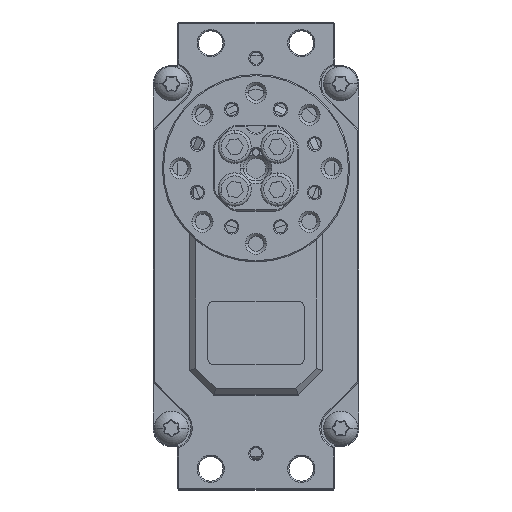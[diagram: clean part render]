
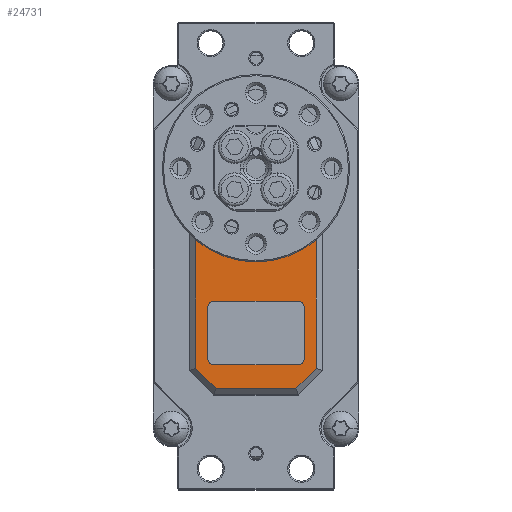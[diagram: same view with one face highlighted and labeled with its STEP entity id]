
A CAD part, top view. The second image highlights one B-rep face of the part: STEP entity #24731.
In plain terms, the highlighted planar face has unit normal (0, 0, 1).
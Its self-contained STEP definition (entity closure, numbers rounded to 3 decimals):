
#171 = CARTESIAN_POINT ( 'NONE',  ( 6.586, -36.5, 3.9 ) ) ;
#189 = ORIENTED_EDGE ( 'NONE', *, *, #18224, .T. ) ;
#194 = ORIENTED_EDGE ( 'NONE', *, *, #28514, .T. ) ;
#677 = LINE ( 'NONE', #16154, #4040 ) ;
#786 = ORIENTED_EDGE ( 'NONE', *, *, #11096, .F. ) ;
#1022 = CARTESIAN_POINT ( 'NONE',  ( -10., 0., 3.9 ) ) ;
#1552 = CARTESIAN_POINT ( 'NONE',  ( 7., -22., 3.9 ) ) ;
#1826 = CARTESIAN_POINT ( 'NONE',  ( -10., -33.086, 3.9 ) ) ;
#1905 = VECTOR ( 'NONE', #30368, 1000. ) ;
#1912 = AXIS2_PLACEMENT_3D ( 'NONE', #37368, #6768, #7178 ) ;
#2776 = VERTEX_POINT ( 'NONE', #34195 ) ;
#3657 = ORIENTED_EDGE ( 'NONE', *, *, #9508, .T. ) ;
#3662 = VERTEX_POINT ( 'NONE', #21142 ) ;
#3670 = ORIENTED_EDGE ( 'NONE', *, *, #22454, .T. ) ;
#3721 = CIRCLE ( 'NONE', #5652, 1. ) ;
#4040 = VECTOR ( 'NONE', #22624, 1000. ) ;
#4131 = CARTESIAN_POINT ( 'NONE',  ( 0., 0., 3.9 ) ) ;
#4192 = DIRECTION ( 'NONE',  ( 0., 0., -1. ) ) ;
#4248 = DIRECTION ( 'NONE',  ( -1., 0., 0. ) ) ;
#4333 = DIRECTION ( 'NONE',  ( 1., 0., 0. ) ) ;
#4382 = ORIENTED_EDGE ( 'NONE', *, *, #20488, .T. ) ;
#4862 = DIRECTION ( 'NONE',  ( 0., -1., 0. ) ) ;
#4981 = DIRECTION ( 'NONE',  ( 0., 0., -1. ) ) ;
#5193 = AXIS2_PLACEMENT_3D ( 'NONE', #4131, #28900, #4333 ) ;
#5201 = DIRECTION ( 'NONE',  ( 0., 1., 0. ) ) ;
#5411 = VERTEX_POINT ( 'NONE', #33378 ) ;
#5652 = AXIS2_PLACEMENT_3D ( 'NONE', #22909, #4192, #10426 ) ;
#5908 = CARTESIAN_POINT ( 'NONE',  ( -8., -23., 3.9 ) ) ;
#6180 = VECTOR ( 'NONE', #34448, 1000. ) ;
#6630 = EDGE_CURVE ( 'NONE', #31375, #15443, #677, .T. ) ;
#6768 = DIRECTION ( 'NONE',  ( 0., 0., -1. ) ) ;
#6865 = DIRECTION ( 'NONE',  ( 1., 0., 0. ) ) ;
#7178 = DIRECTION ( 'NONE',  ( 1., 0., 0. ) ) ;
#7702 = LINE ( 'NONE', #26417, #14616 ) ;
#7883 = CIRCLE ( 'NONE', #30372, 1. ) ;
#8045 = CARTESIAN_POINT ( 'NONE',  ( -8., -31.5, 3.9 ) ) ;
#8875 = VECTOR ( 'NONE', #16112, 1000. ) ;
#9374 = EDGE_CURVE ( 'NONE', #12644, #2776, #7702, .T. ) ;
#9508 = EDGE_CURVE ( 'NONE', #25702, #12644, #3721, .T. ) ;
#10282 = LINE ( 'NONE', #22571, #26160 ) ;
#10426 = DIRECTION ( 'NONE',  ( 1., 0., 0. ) ) ;
#10483 = LINE ( 'NONE', #1022, #8875 ) ;
#10624 = LINE ( 'NONE', #10840, #13918 ) ;
#10644 = ORIENTED_EDGE ( 'NONE', *, *, #9374, .T. ) ;
#10792 = CARTESIAN_POINT ( 'NONE',  ( 0., -10.5, 3.9 ) ) ;
#10840 = CARTESIAN_POINT ( 'NONE',  ( 10., 14., 3.9 ) ) ;
#11021 = LINE ( 'NONE', #14016, #23223 ) ;
#11096 = EDGE_CURVE ( 'NONE', #26518, #33959, #35960, .T. ) ;
#11533 = AXIS2_PLACEMENT_3D ( 'NONE', #27128, #33347, #30128 ) ;
#12484 = EDGE_LOOP ( 'NONE', ( #3657, #10644, #189, #33798, #4382, #33476, #12808, #194 ) ) ;
#12510 = CARTESIAN_POINT ( 'NONE',  ( 9.67, -10.5, 3.9 ) ) ;
#12644 = VERTEX_POINT ( 'NONE', #35707 ) ;
#12808 = ORIENTED_EDGE ( 'NONE', *, *, #13379, .T. ) ;
#13379 = EDGE_CURVE ( 'NONE', #13992, #3662, #31456, .T. ) ;
#13708 = LINE ( 'NONE', #16940, #26580 ) ;
#13780 = LINE ( 'NONE', #10792, #30108 ) ;
#13807 = AXIS2_PLACEMENT_3D ( 'NONE', #31011, #16296, #6865 ) ;
#13918 = VECTOR ( 'NONE', #5201, 1000. ) ;
#13992 = VERTEX_POINT ( 'NONE', #5908 ) ;
#14016 = CARTESIAN_POINT ( 'NONE',  ( -14., -32.5, 3.9 ) ) ;
#14464 = ORIENTED_EDGE ( 'NONE', *, *, #19042, .T. ) ;
#14616 = VECTOR ( 'NONE', #4862, 1000. ) ;
#15443 = VERTEX_POINT ( 'NONE', #16731 ) ;
#15520 = LINE ( 'NONE', #27832, #6180 ) ;
#16112 = DIRECTION ( 'NONE',  ( 0., 1., 0. ) ) ;
#16154 = CARTESIAN_POINT ( 'NONE',  ( 6.586, -36.5, 3.9 ) ) ;
#16296 = DIRECTION ( 'NONE',  ( 0., 0., -1. ) ) ;
#16731 = CARTESIAN_POINT ( 'NONE',  ( 10., -33.086, 3.9 ) ) ;
#16940 = CARTESIAN_POINT ( 'NONE',  ( -14., -10.5, 3.9 ) ) ;
#17243 = DIRECTION ( 'NONE',  ( 1., 0., 0. ) ) ;
#18224 = EDGE_CURVE ( 'NONE', #2776, #31294, #7883, .T. ) ;
#18483 = CARTESIAN_POINT ( 'NONE',  ( -14., -22., 3.9 ) ) ;
#18827 = VERTEX_POINT ( 'NONE', #12510 ) ;
#19042 = EDGE_CURVE ( 'NONE', #32777, #23714, #13708, .T. ) ;
#20246 = EDGE_LOOP ( 'NONE', ( #14464, #25347, #786, #23186, #25881, #3670, #27604, #32304 ) ) ;
#20278 = DIRECTION ( 'NONE',  ( -1., 0., 0. ) ) ;
#20488 = EDGE_CURVE ( 'NONE', #5411, #25396, #37619, .T. ) ;
#21065 = DIRECTION ( 'NONE',  ( -0.707, 0.707, 0. ) ) ;
#21142 = CARTESIAN_POINT ( 'NONE',  ( -7., -22., 3.9 ) ) ;
#22454 = EDGE_CURVE ( 'NONE', #15443, #25057, #10624, .T. ) ;
#22571 = CARTESIAN_POINT ( 'NONE',  ( 0., -36.5, 3.9 ) ) ;
#22624 = DIRECTION ( 'NONE',  ( 0.707, 0.707, 0. ) ) ;
#22909 = CARTESIAN_POINT ( 'NONE',  ( 7., -23., 3.9 ) ) ;
#23186 = ORIENTED_EDGE ( 'NONE', *, *, #33913, .F. ) ;
#23223 = VECTOR ( 'NONE', #20278, 1000. ) ;
#23421 = EDGE_CURVE ( 'NONE', #33959, #23714, #10483, .T. ) ;
#23714 = VERTEX_POINT ( 'NONE', #37374 ) ;
#23895 = EDGE_CURVE ( 'NONE', #25057, #18827, #13780, .T. ) ;
#24387 = CARTESIAN_POINT ( 'NONE',  ( 10., -10.5, 3.9 ) ) ;
#24731 = ADVANCED_FACE ( 'NONE', ( #32955, #38989 ), #39194, .T. ) ;
#25057 = VERTEX_POINT ( 'NONE', #24387 ) ;
#25347 = ORIENTED_EDGE ( 'NONE', *, *, #23421, .F. ) ;
#25396 = VERTEX_POINT ( 'NONE', #8045 ) ;
#25702 = VERTEX_POINT ( 'NONE', #1552 ) ;
#25827 = CARTESIAN_POINT ( 'NONE',  ( -6.586, -36.5, 3.9 ) ) ;
#25881 = ORIENTED_EDGE ( 'NONE', *, *, #6630, .T. ) ;
#26097 = EDGE_CURVE ( 'NONE', #18827, #32777, #32192, .T. ) ;
#26160 = VECTOR ( 'NONE', #4248, 1000. ) ;
#26417 = CARTESIAN_POINT ( 'NONE',  ( 8., 14., 3.9 ) ) ;
#26518 = VERTEX_POINT ( 'NONE', #25827 ) ;
#26580 = VECTOR ( 'NONE', #38512, 1000. ) ;
#26942 = CARTESIAN_POINT ( 'NONE',  ( -9.67, -10.5, 3.9 ) ) ;
#27128 = CARTESIAN_POINT ( 'NONE',  ( -14., 14., 3.9 ) ) ;
#27465 = VECTOR ( 'NONE', #21065, 1000. ) ;
#27604 = ORIENTED_EDGE ( 'NONE', *, *, #23895, .T. ) ;
#27832 = CARTESIAN_POINT ( 'NONE',  ( -8., 14., 3.9 ) ) ;
#28514 = EDGE_CURVE ( 'NONE', #3662, #25702, #36603, .T. ) ;
#28900 = DIRECTION ( 'NONE',  ( 0., 0., -1. ) ) ;
#29789 = CARTESIAN_POINT ( 'NONE',  ( 7., -32.5, 3.9 ) ) ;
#30108 = VECTOR ( 'NONE', #35545, 1000. ) ;
#30128 = DIRECTION ( 'NONE',  ( 1., 0., 0. ) ) ;
#30368 = DIRECTION ( 'NONE',  ( 1., 0., 0. ) ) ;
#30372 = AXIS2_PLACEMENT_3D ( 'NONE', #35378, #4981, #17243 ) ;
#31011 = CARTESIAN_POINT ( 'NONE',  ( -7., -31.5, 3.9 ) ) ;
#31294 = VERTEX_POINT ( 'NONE', #29789 ) ;
#31375 = VERTEX_POINT ( 'NONE', #171 ) ;
#31456 = CIRCLE ( 'NONE', #1912, 1. ) ;
#31627 = EDGE_CURVE ( 'NONE', #31294, #5411, #11021, .T. ) ;
#32192 = CIRCLE ( 'NONE', #5193, 14.274 ) ;
#32304 = ORIENTED_EDGE ( 'NONE', *, *, #26097, .T. ) ;
#32777 = VERTEX_POINT ( 'NONE', #26942 ) ;
#32955 = FACE_BOUND ( 'NONE', #12484, .T. ) ;
#33347 = DIRECTION ( 'NONE',  ( 0., 0., 1. ) ) ;
#33378 = CARTESIAN_POINT ( 'NONE',  ( -7., -32.5, 3.9 ) ) ;
#33476 = ORIENTED_EDGE ( 'NONE', *, *, #34945, .T. ) ;
#33535 = CARTESIAN_POINT ( 'NONE',  ( -6.586, -36.5, 3.9 ) ) ;
#33798 = ORIENTED_EDGE ( 'NONE', *, *, #31627, .T. ) ;
#33913 = EDGE_CURVE ( 'NONE', #31375, #26518, #10282, .T. ) ;
#33959 = VERTEX_POINT ( 'NONE', #1826 ) ;
#34195 = CARTESIAN_POINT ( 'NONE',  ( 8., -31.5, 3.9 ) ) ;
#34448 = DIRECTION ( 'NONE',  ( 0., 1., 0. ) ) ;
#34945 = EDGE_CURVE ( 'NONE', #25396, #13992, #15520, .T. ) ;
#35378 = CARTESIAN_POINT ( 'NONE',  ( 7., -31.5, 3.9 ) ) ;
#35545 = DIRECTION ( 'NONE',  ( -1., 0., 0. ) ) ;
#35707 = CARTESIAN_POINT ( 'NONE',  ( 8., -23., 3.9 ) ) ;
#35960 = LINE ( 'NONE', #33535, #27465 ) ;
#36603 = LINE ( 'NONE', #18483, #1905 ) ;
#37368 = CARTESIAN_POINT ( 'NONE',  ( -7., -23., 3.9 ) ) ;
#37374 = CARTESIAN_POINT ( 'NONE',  ( -10., -10.5, 3.9 ) ) ;
#37619 = CIRCLE ( 'NONE', #13807, 1. ) ;
#38512 = DIRECTION ( 'NONE',  ( -1., 0., 0. ) ) ;
#38989 = FACE_OUTER_BOUND ( 'NONE', #20246, .T. ) ;
#39194 = PLANE ( 'NONE',  #11533 ) ;
